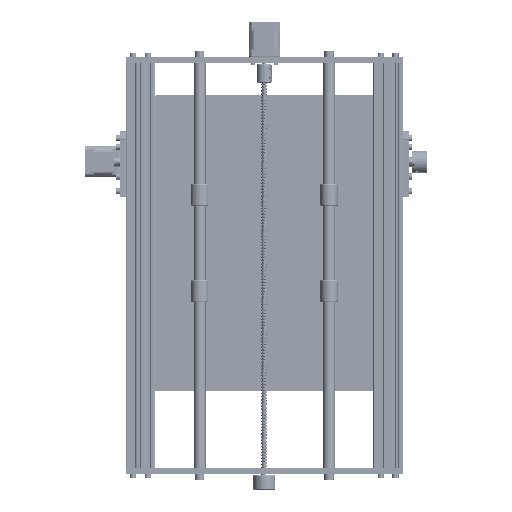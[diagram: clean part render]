
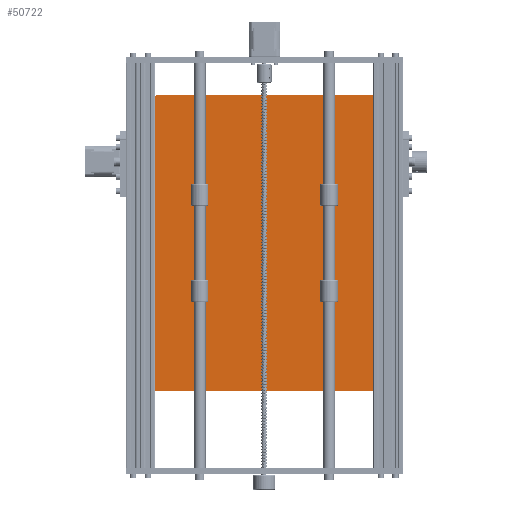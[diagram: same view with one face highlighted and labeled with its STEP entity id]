
A CAD part, front view. The second image highlights one B-rep face of the part: STEP entity #50722.
In plain terms, the highlighted planar face has unit normal (0, -1, 0).
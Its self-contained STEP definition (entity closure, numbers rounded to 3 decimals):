
#5195=PLANE('',#55054);
#7296=FACE_OUTER_BOUND('',#10168,.T.);
#10168=EDGE_LOOP('',(#42842,#42843,#42844,#42845,#42846,#42847,#42848,#42849));
#13803=LINE('',#150199,#17183);
#13806=LINE('',#150208,#17186);
#13809=LINE('',#150216,#17189);
#13811=LINE('',#150222,#17191);
#17183=VECTOR('',#64086,10.);
#17186=VECTOR('',#64097,10.);
#17189=VECTOR('',#64106,10.);
#17191=VECTOR('',#64114,10.);
#18558=CIRCLE('',#55042,5.);
#18559=CIRCLE('',#55046,5.);
#18560=CIRCLE('',#55049,5.);
#18561=CIRCLE('',#55052,5.);
#22933=VERTEX_POINT('',#150191);
#22934=VERTEX_POINT('',#150193);
#22935=VERTEX_POINT('',#150197);
#22936=VERTEX_POINT('',#150202);
#22937=VERTEX_POINT('',#150206);
#22938=VERTEX_POINT('',#150210);
#22939=VERTEX_POINT('',#150214);
#22940=VERTEX_POINT('',#150218);
#29837=EDGE_CURVE('',#22933,#22934,#18558,.T.);
#29840=EDGE_CURVE('',#22935,#22933,#13803,.T.);
#29842=EDGE_CURVE('',#22936,#22935,#18559,.T.);
#29844=EDGE_CURVE('',#22937,#22936,#13806,.T.);
#29846=EDGE_CURVE('',#22938,#22937,#18560,.T.);
#29848=EDGE_CURVE('',#22939,#22938,#13809,.T.);
#29850=EDGE_CURVE('',#22940,#22939,#18561,.T.);
#29851=EDGE_CURVE('',#22934,#22940,#13811,.T.);
#42842=ORIENTED_EDGE('',*,*,#29837,.F.);
#42843=ORIENTED_EDGE('',*,*,#29840,.F.);
#42844=ORIENTED_EDGE('',*,*,#29842,.F.);
#42845=ORIENTED_EDGE('',*,*,#29844,.F.);
#42846=ORIENTED_EDGE('',*,*,#29846,.F.);
#42847=ORIENTED_EDGE('',*,*,#29848,.F.);
#42848=ORIENTED_EDGE('',*,*,#29850,.F.);
#42849=ORIENTED_EDGE('',*,*,#29851,.F.);
#50722=ADVANCED_FACE('',(#7296),#5195,.F.);
#55042=AXIS2_PLACEMENT_3D('',#150194,#64080,#64081);
#55046=AXIS2_PLACEMENT_3D('',#150204,#64092,#64093);
#55049=AXIS2_PLACEMENT_3D('',#150212,#64101,#64102);
#55052=AXIS2_PLACEMENT_3D('',#150220,#64110,#64111);
#55054=AXIS2_PLACEMENT_3D('',#150223,#64115,#64116);
#64080=DIRECTION('center_axis',(0.,1.,0.));
#64081=DIRECTION('ref_axis',(-0.707,0.,-0.707));
#64086=DIRECTION('',(-1.,0.,0.));
#64092=DIRECTION('center_axis',(0.,1.,0.));
#64093=DIRECTION('ref_axis',(0.707,0.,-0.707));
#64097=DIRECTION('',(0.,0.,-1.));
#64101=DIRECTION('center_axis',(0.,1.,0.));
#64102=DIRECTION('ref_axis',(0.707,0.,0.707));
#64106=DIRECTION('',(1.,0.,0.));
#64110=DIRECTION('center_axis',(0.,1.,0.));
#64111=DIRECTION('ref_axis',(-0.707,0.,0.707));
#64114=DIRECTION('',(0.,0.,1.));
#64115=DIRECTION('center_axis',(0.,1.,0.));
#64116=DIRECTION('ref_axis',(0.,0.,1.));
#150191=CARTESIAN_POINT('',(-195.,0.,-150.));
#150193=CARTESIAN_POINT('',(-200.,0.,-145.));
#150194=CARTESIAN_POINT('Origin',(-195.,0.,-145.));
#150197=CARTESIAN_POINT('',(195.,0.,-150.));
#150199=CARTESIAN_POINT('',(200.,0.,-150.));
#150202=CARTESIAN_POINT('',(200.,0.,-145.));
#150204=CARTESIAN_POINT('Origin',(195.,0.,-145.));
#150206=CARTESIAN_POINT('',(200.,0.,145.));
#150208=CARTESIAN_POINT('',(200.,0.,150.));
#150210=CARTESIAN_POINT('',(195.,0.,150.));
#150212=CARTESIAN_POINT('Origin',(195.,0.,145.));
#150214=CARTESIAN_POINT('',(-195.,0.,150.));
#150216=CARTESIAN_POINT('',(-200.,0.,150.));
#150218=CARTESIAN_POINT('',(-200.,0.,145.));
#150220=CARTESIAN_POINT('Origin',(-195.,0.,145.));
#150222=CARTESIAN_POINT('',(-200.,0.,-150.));
#150223=CARTESIAN_POINT('Origin',(0.,0.,0.));
